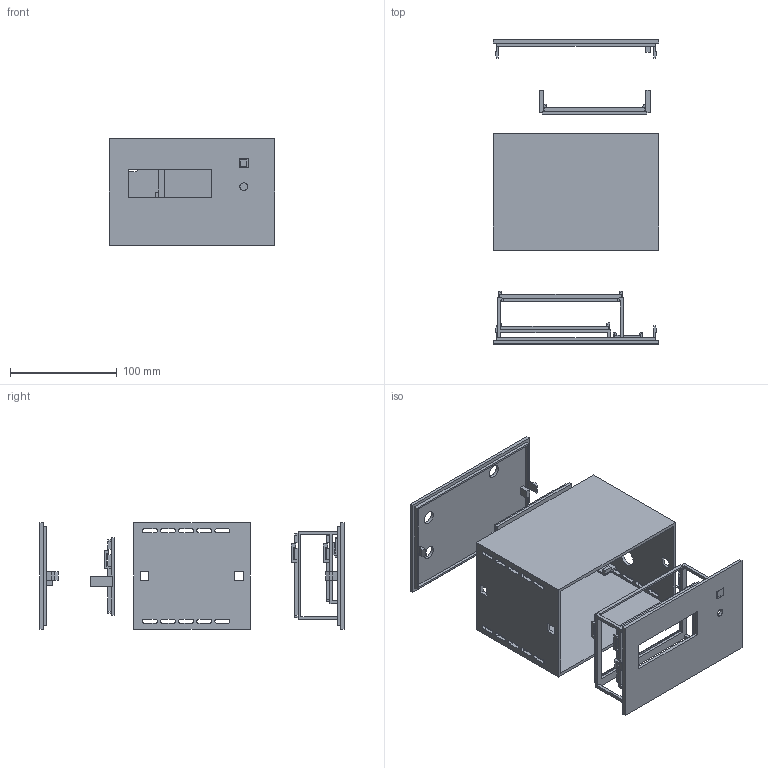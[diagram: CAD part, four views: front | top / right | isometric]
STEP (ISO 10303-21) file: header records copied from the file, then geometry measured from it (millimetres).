
FILE_DESCRIPTION(('Open CASCADE Model'),'2;1');
FILE_NAME('Open CASCADE Shape Model','2026-11-06T18:44:26',('Author'),( 'Open CASCADE'),'Open CASCADE STEP processor 7.8','Open CASCADE 7.8' ,'Unknown');
FILE_SCHEMA(('AUTOMOTIVE_DESIGN { 1 0 10303 214 1 1 1 1 }'));
Length unit declared in the file: millimetre
Products named in the file (7): Boitier_pieces_vue_eclatee; 01_Coque_ouverte; 02_Facade_supports_LCD_A; 03_Berceau_B; 04_Panneau_arriere; 05_Fenetre_translucide; 06_Cassette_BH1750
Assembly tree (6 placements, depth 2):
  Boitier_pieces_vue_eclatee
    01_Coque_ouverte
    02_Facade_supports_LCD_A
    03_Berceau_B
    04_Panneau_arriere
    05_Fenetre_translucide
    06_Cassette_BH1750
Bounding box: 155 x 285 x 100 mm (x, y, z)
Volume: 285702.2 mm3; surface area: 221049.1 mm2
Topology: 6 solids, 6 shells, 582 faces, 1644 edges, 1094 vertices
Faces by surface type: plane 537, cylinder 45
Full cylindrical faces by diameter (mm): 7.2 x1, 12.4 x1, 12.5 x2, 16 x1
Entity records: 40239 total; most frequent: CARTESIAN_POINT 6615, DIRECTION 6200, LINE 4752, VECTOR 4752, ORIENTED_EDGE 3288, PCURVE 3288, DEFINITIONAL_REPRESENTATION 3288, EDGE_CURVE 1644
